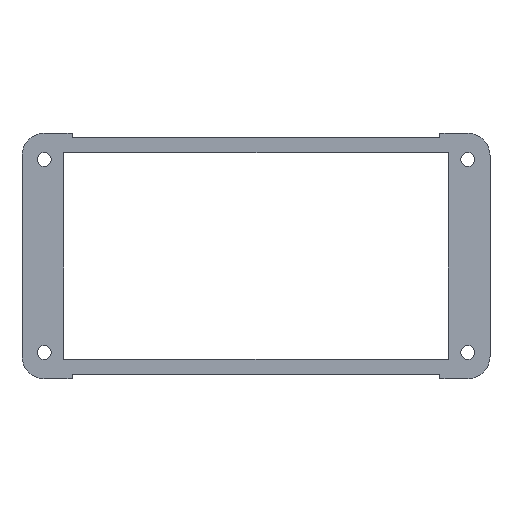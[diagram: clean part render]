
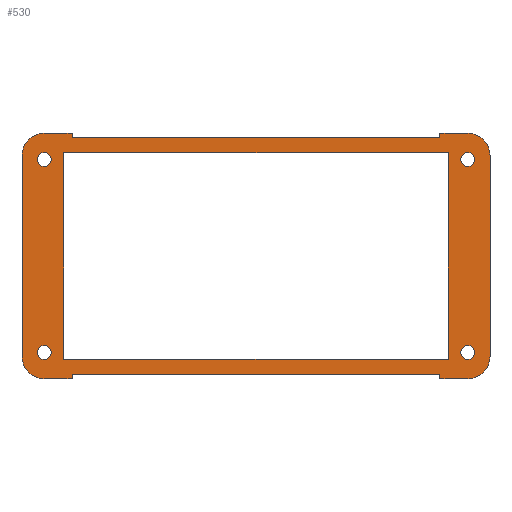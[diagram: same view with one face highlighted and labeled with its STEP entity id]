
A CAD part, top view. The second image highlights one B-rep face of the part: STEP entity #530.
In plain terms, the highlighted planar face has unit normal (0, 0, 1).
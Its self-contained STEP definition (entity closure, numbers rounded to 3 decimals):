
#20=FACE_BOUND('',#100,.T.);
#21=FACE_BOUND('',#101,.T.);
#22=FACE_BOUND('',#102,.T.);
#23=FACE_BOUND('',#103,.T.);
#24=FACE_BOUND('',#104,.T.);
#42=PLANE('',#595);
#68=FACE_OUTER_BOUND('',#99,.T.);
#99=EDGE_LOOP('',(#473,#474,#475,#476,#477,#478,#479,#480,#481,#482,#483,
#484,#485,#486,#487,#488));
#100=EDGE_LOOP('',(#489));
#101=EDGE_LOOP('',(#490));
#102=EDGE_LOOP('',(#491));
#103=EDGE_LOOP('',(#492));
#104=EDGE_LOOP('',(#493,#494,#495,#496));
#127=LINE('',#812,#183);
#133=LINE('',#827,#189);
#136=LINE('',#836,#192);
#139=LINE('',#842,#195);
#142=LINE('',#847,#198);
#144=LINE('',#851,#200);
#145=LINE('',#853,#201);
#146=LINE('',#856,#202);
#148=LINE('',#860,#204);
#150=LINE('',#864,#206);
#152=LINE('',#867,#208);
#153=LINE('',#869,#209);
#154=LINE('',#872,#210);
#156=LINE('',#876,#212);
#158=LINE('',#880,#214);
#160=LINE('',#883,#216);
#183=VECTOR('',#660,10.);
#189=VECTOR('',#676,10.);
#192=VECTOR('',#685,10.);
#195=VECTOR('',#690,10.);
#198=VECTOR('',#695,10.);
#200=VECTOR('',#699,10.);
#201=VECTOR('',#702,10.);
#202=VECTOR('',#705,10.);
#204=VECTOR('',#709,10.);
#206=VECTOR('',#713,10.);
#208=VECTOR('',#717,10.);
#209=VECTOR('',#720,10.);
#210=VECTOR('',#723,10.);
#212=VECTOR('',#727,10.);
#214=VECTOR('',#731,10.);
#216=VECTOR('',#735,10.);
#217=CIRCLE('',#555,1.25);
#219=CIRCLE('',#558,1.25);
#221=CIRCLE('',#561,1.25);
#223=CIRCLE('',#564,1.25);
#225=CIRCLE('',#567,4.);
#230=CIRCLE('',#575,4.);
#231=CIRCLE('',#577,4.);
#232=CIRCLE('',#580,4.);
#233=VERTEX_POINT('',#740);
#235=VERTEX_POINT('',#746);
#237=VERTEX_POINT('',#752);
#239=VERTEX_POINT('',#758);
#241=VERTEX_POINT('',#764);
#242=VERTEX_POINT('',#765);
#263=VERTEX_POINT('',#811);
#264=VERTEX_POINT('',#815);
#265=VERTEX_POINT('',#819);
#266=VERTEX_POINT('',#820);
#267=VERTEX_POINT('',#825);
#268=VERTEX_POINT('',#829);
#269=VERTEX_POINT('',#830);
#270=VERTEX_POINT('',#835);
#271=VERTEX_POINT('',#839);
#272=VERTEX_POINT('',#841);
#273=VERTEX_POINT('',#845);
#274=VERTEX_POINT('',#849);
#275=VERTEX_POINT('',#855);
#276=VERTEX_POINT('',#859);
#277=VERTEX_POINT('',#863);
#278=VERTEX_POINT('',#871);
#279=VERTEX_POINT('',#875);
#280=VERTEX_POINT('',#879);
#281=EDGE_CURVE('',#233,#233,#217,.T.);
#284=EDGE_CURVE('',#235,#235,#219,.T.);
#287=EDGE_CURVE('',#237,#237,#221,.T.);
#290=EDGE_CURVE('',#239,#239,#223,.T.);
#293=EDGE_CURVE('',#241,#242,#225,.T.);
#316=EDGE_CURVE('',#263,#242,#127,.T.);
#318=EDGE_CURVE('',#263,#264,#230,.T.);
#320=EDGE_CURVE('',#265,#266,#231,.T.);
#324=EDGE_CURVE('',#265,#267,#133,.T.);
#325=EDGE_CURVE('',#268,#269,#232,.T.);
#328=EDGE_CURVE('',#270,#269,#136,.T.);
#331=EDGE_CURVE('',#272,#271,#139,.T.);
#334=EDGE_CURVE('',#271,#273,#142,.T.);
#336=EDGE_CURVE('',#273,#274,#144,.T.);
#337=EDGE_CURVE('',#274,#272,#145,.T.);
#338=EDGE_CURVE('',#275,#264,#146,.T.);
#340=EDGE_CURVE('',#276,#275,#148,.T.);
#342=EDGE_CURVE('',#277,#276,#150,.T.);
#344=EDGE_CURVE('',#267,#277,#152,.T.);
#345=EDGE_CURVE('',#268,#266,#153,.T.);
#346=EDGE_CURVE('',#278,#270,#154,.T.);
#348=EDGE_CURVE('',#279,#278,#156,.T.);
#350=EDGE_CURVE('',#280,#279,#158,.T.);
#352=EDGE_CURVE('',#241,#280,#160,.T.);
#473=ORIENTED_EDGE('',*,*,#293,.F.);
#474=ORIENTED_EDGE('',*,*,#352,.T.);
#475=ORIENTED_EDGE('',*,*,#350,.T.);
#476=ORIENTED_EDGE('',*,*,#348,.T.);
#477=ORIENTED_EDGE('',*,*,#346,.T.);
#478=ORIENTED_EDGE('',*,*,#328,.T.);
#479=ORIENTED_EDGE('',*,*,#325,.F.);
#480=ORIENTED_EDGE('',*,*,#345,.T.);
#481=ORIENTED_EDGE('',*,*,#320,.F.);
#482=ORIENTED_EDGE('',*,*,#324,.T.);
#483=ORIENTED_EDGE('',*,*,#344,.T.);
#484=ORIENTED_EDGE('',*,*,#342,.T.);
#485=ORIENTED_EDGE('',*,*,#340,.T.);
#486=ORIENTED_EDGE('',*,*,#338,.T.);
#487=ORIENTED_EDGE('',*,*,#318,.F.);
#488=ORIENTED_EDGE('',*,*,#316,.T.);
#489=ORIENTED_EDGE('',*,*,#281,.T.);
#490=ORIENTED_EDGE('',*,*,#284,.T.);
#491=ORIENTED_EDGE('',*,*,#287,.T.);
#492=ORIENTED_EDGE('',*,*,#290,.T.);
#493=ORIENTED_EDGE('',*,*,#331,.T.);
#494=ORIENTED_EDGE('',*,*,#334,.T.);
#495=ORIENTED_EDGE('',*,*,#336,.T.);
#496=ORIENTED_EDGE('',*,*,#337,.T.);
#530=ADVANCED_FACE('',(#68,#20,#21,#22,#23,#24),#42,.T.);
#555=AXIS2_PLACEMENT_3D('',#741,#600,#601);
#558=AXIS2_PLACEMENT_3D('',#747,#607,#608);
#561=AXIS2_PLACEMENT_3D('',#753,#614,#615);
#564=AXIS2_PLACEMENT_3D('',#759,#621,#622);
#567=AXIS2_PLACEMENT_3D('',#766,#628,#629);
#575=AXIS2_PLACEMENT_3D('',#816,#664,#665);
#577=AXIS2_PLACEMENT_3D('',#821,#669,#670);
#580=AXIS2_PLACEMENT_3D('',#831,#679,#680);
#595=AXIS2_PLACEMENT_3D('',#884,#736,#737);
#600=DIRECTION('center_axis',(0.,0.,-1.));
#601=DIRECTION('ref_axis',(1.,0.,0.));
#607=DIRECTION('center_axis',(0.,0.,-1.));
#608=DIRECTION('ref_axis',(1.,0.,0.));
#614=DIRECTION('center_axis',(0.,0.,-1.));
#615=DIRECTION('ref_axis',(1.,0.,0.));
#621=DIRECTION('center_axis',(0.,0.,-1.));
#622=DIRECTION('ref_axis',(1.,0.,0.));
#628=DIRECTION('center_axis',(0.,0.,-1.));
#629=DIRECTION('ref_axis',(-0.707,-0.707,0.));
#660=DIRECTION('',(0.,-1.,0.));
#664=DIRECTION('center_axis',(0.,0.,-1.));
#665=DIRECTION('ref_axis',(-0.707,0.707,0.));
#669=DIRECTION('center_axis',(0.,0.,-1.));
#670=DIRECTION('ref_axis',(0.707,0.707,0.));
#676=DIRECTION('',(-1.,0.,0.));
#679=DIRECTION('center_axis',(0.,0.,-1.));
#680=DIRECTION('ref_axis',(0.707,-0.707,0.));
#685=DIRECTION('',(1.,0.,0.));
#690=DIRECTION('',(0.,1.,0.));
#695=DIRECTION('',(1.,0.,0.));
#699=DIRECTION('',(0.,-1.,0.));
#702=DIRECTION('',(-1.,0.,0.));
#705=DIRECTION('',(-1.,0.,0.));
#709=DIRECTION('',(0.,1.,0.));
#713=DIRECTION('',(-1.,0.,0.));
#717=DIRECTION('',(0.,-1.,0.));
#720=DIRECTION('',(0.,1.,0.));
#723=DIRECTION('',(0.,-1.,0.));
#727=DIRECTION('',(1.,0.,0.));
#731=DIRECTION('',(0.,1.,0.));
#735=DIRECTION('',(1.,0.,0.));
#736=DIRECTION('center_axis',(0.,0.,1.));
#737=DIRECTION('ref_axis',(1.,0.,0.));
#740=CARTESIAN_POINT('',(36.76,-17.32,1.575));
#741=CARTESIAN_POINT('Origin',(38.01,-17.32,1.575));
#746=CARTESIAN_POINT('',(-39.26,17.32,1.575));
#747=CARTESIAN_POINT('Origin',(-38.01,17.32,1.575));
#752=CARTESIAN_POINT('',(36.76,17.32,1.575));
#753=CARTESIAN_POINT('Origin',(38.01,17.32,1.575));
#758=CARTESIAN_POINT('',(-39.26,-17.32,1.575));
#759=CARTESIAN_POINT('Origin',(-38.01,-17.32,1.575));
#764=CARTESIAN_POINT('',(-38.,-22.055,1.575));
#765=CARTESIAN_POINT('',(-42.,-18.055,1.575));
#766=CARTESIAN_POINT('Origin',(-38.,-18.055,1.575));
#811=CARTESIAN_POINT('',(-42.,18.055,1.575));
#812=CARTESIAN_POINT('',(-42.,22.055,1.575));
#815=CARTESIAN_POINT('',(-38.,22.055,1.575));
#816=CARTESIAN_POINT('Origin',(-38.,18.055,1.575));
#819=CARTESIAN_POINT('',(38.,22.055,1.575));
#820=CARTESIAN_POINT('',(42.,18.055,1.575));
#821=CARTESIAN_POINT('Origin',(38.,18.055,1.575));
#825=CARTESIAN_POINT('',(33.,22.055,1.575));
#827=CARTESIAN_POINT('',(42.,22.055,1.575));
#829=CARTESIAN_POINT('',(42.,-18.055,1.575));
#830=CARTESIAN_POINT('',(38.,-22.055,1.575));
#831=CARTESIAN_POINT('Origin',(38.,-18.055,1.575));
#835=CARTESIAN_POINT('',(33.,-22.055,1.575));
#836=CARTESIAN_POINT('',(-42.,-22.055,1.575));
#839=CARTESIAN_POINT('',(-34.5,18.5,1.575));
#841=CARTESIAN_POINT('',(-34.5,-18.5,1.575));
#842=CARTESIAN_POINT('',(-34.5,9.25,1.575));
#845=CARTESIAN_POINT('',(34.5,18.5,1.575));
#847=CARTESIAN_POINT('',(17.25,18.5,1.575));
#849=CARTESIAN_POINT('',(34.5,-18.5,1.575));
#851=CARTESIAN_POINT('',(34.5,-9.25,1.575));
#853=CARTESIAN_POINT('',(-17.25,-18.5,1.575));
#855=CARTESIAN_POINT('',(-33.,22.055,1.575));
#856=CARTESIAN_POINT('',(42.,22.055,1.575));
#859=CARTESIAN_POINT('',(-33.,21.295,1.575));
#860=CARTESIAN_POINT('',(-33.,21.295,1.575));
#863=CARTESIAN_POINT('',(33.,21.295,1.575));
#864=CARTESIAN_POINT('',(33.,21.295,1.575));
#867=CARTESIAN_POINT('',(33.,22.055,1.575));
#869=CARTESIAN_POINT('',(42.,-22.055,1.575));
#871=CARTESIAN_POINT('',(33.,-21.295,1.575));
#872=CARTESIAN_POINT('',(33.,-21.295,1.575));
#875=CARTESIAN_POINT('',(-33.,-21.295,1.575));
#876=CARTESIAN_POINT('',(-33.,-21.295,1.575));
#879=CARTESIAN_POINT('',(-33.,-22.055,1.575));
#880=CARTESIAN_POINT('',(-33.,-22.055,1.575));
#883=CARTESIAN_POINT('',(-42.,-22.055,1.575));
#884=CARTESIAN_POINT('Origin',(0.,0.,1.575));
